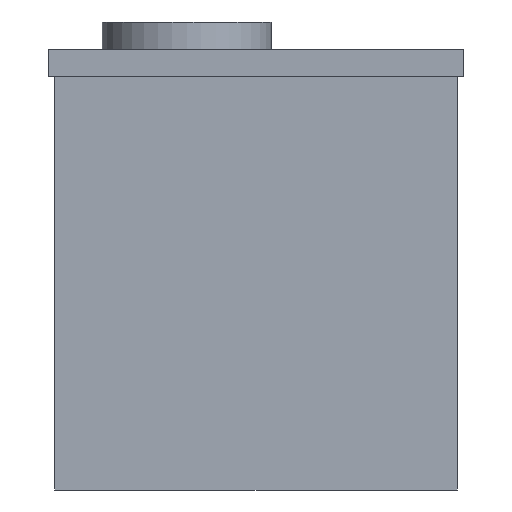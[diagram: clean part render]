
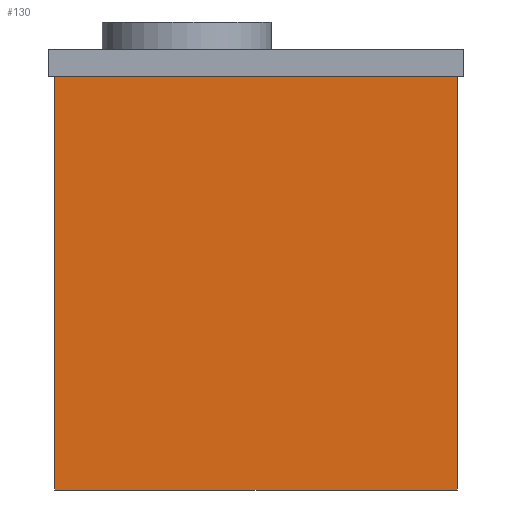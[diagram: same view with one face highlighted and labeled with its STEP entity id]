
A CAD part, front view. The second image highlights one B-rep face of the part: STEP entity #130.
In plain terms, the highlighted planar face has unit normal (0, -1, 0).
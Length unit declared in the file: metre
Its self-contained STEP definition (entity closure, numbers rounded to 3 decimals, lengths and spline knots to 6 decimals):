
#130=ADVANCED_FACE('0:57',(#308),#309,.T.);
#308=FACE_OUTER_BOUND('',#527,.T.);
#309=PLANE('',#528);
#527=EDGE_LOOP('',(#1352,#1353,#1354,#1355));
#528=AXIS2_PLACEMENT_3D('',#1356,#1357,#1358);
#1352=ORIENTED_EDGE('',*,*,#1619,.F.);
#1353=ORIENTED_EDGE('',*,*,#1624,.T.);
#1354=ORIENTED_EDGE('',*,*,#1625,.F.);
#1355=ORIENTED_EDGE('',*,*,#1598,.F.);
#1356=CARTESIAN_POINT('',(0.259,-0.774,0.0));
#1357=DIRECTION('',(0.0,-1.0,0.0));
#1358=DIRECTION('',(0.0,0.0,-1.0));
#1598=EDGE_CURVE('0:135',#1946,#1948,#1949,.F.);
#1619=EDGE_CURVE('0:153',#1981,#1946,#1983,.T.);
#1624=EDGE_CURVE('0:168',#1981,#1988,#1990,.T.);
#1625=EDGE_CURVE('0:171',#1948,#1988,#1991,.F.);
#1946=VERTEX_POINT('',#2716);
#1948=VERTEX_POINT('',#2719);
#1949=LINE('',#2720,#2721);
#1981=VERTEX_POINT('',#2768);
#1983=LINE('',#2771,#2772);
#1988=VERTEX_POINT('',#2780);
#1990=LINE('',#2783,#2784);
#1991=LINE('',#2785,#2786);
#2716=CARTESIAN_POINT('',(-0.087,-0.774,0.0));
#2719=CARTESIAN_POINT('',(-0.087,-0.774,0.612));
#2720=CARTESIAN_POINT('',(-0.087,-0.774,0.0));
#2721=VECTOR('',#2936,1.0);
#2768=CARTESIAN_POINT('',(0.508,-0.774,0.0));
#2771=CARTESIAN_POINT('',(0.1295,-0.774,0.0));
#2772=VECTOR('',#2965,1.0);
#2780=CARTESIAN_POINT('',(0.508,-0.774,0.612));
#2783=CARTESIAN_POINT('',(0.508,-0.774,0.0));
#2784=VECTOR('',#2970,1.0);
#2785=CARTESIAN_POINT('',(0.1295,-0.774,0.612));
#2786=VECTOR('',#2971,1.0);
#2936=DIRECTION('',(-0.0,-0.0,-1.0));
#2965=DIRECTION('',(-1.0,0.0,0.0));
#2970=DIRECTION('',(0.0,0.0,1.0));
#2971=DIRECTION('',(-1.0,0.0,0.0));
